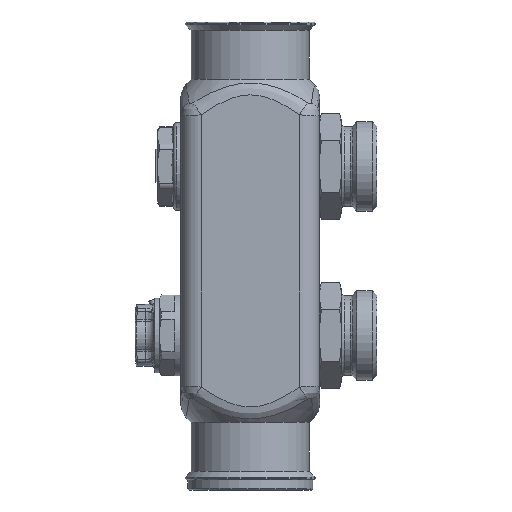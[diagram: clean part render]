
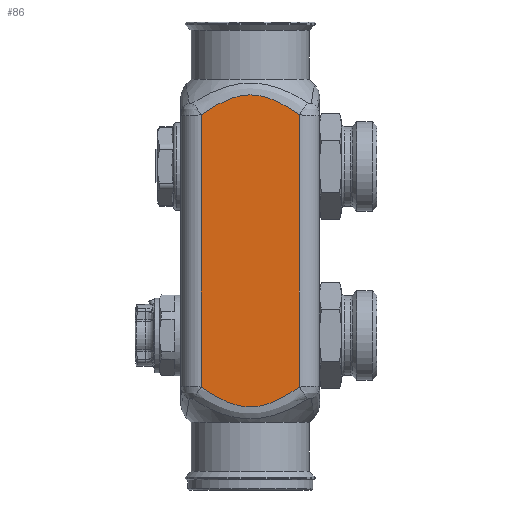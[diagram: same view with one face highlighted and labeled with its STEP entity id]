
A CAD part, left-side view. The second image highlights one B-rep face of the part: STEP entity #86.
In plain terms, the highlighted planar face has unit normal (-1, 0, 0).
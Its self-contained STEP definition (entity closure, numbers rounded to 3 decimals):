
#86=ADVANCED_FACE('',(#1311),#1313,.T.);
#1311=FACE_BOUND('',#1312,.T.);
#1312=EDGE_LOOP('',(#10306,#10307,#10308,#10309));
#1313=PLANE('',#1314);
#1314=AXIS2_PLACEMENT_3D('',#1315,#1316,#1317);
#1315=CARTESIAN_POINT('',(-20.,14.5,-51.));
#1316=DIRECTION('',(-1.,0.,0.));
#1317=DIRECTION('',(0.,-1.,0.));
#10306=ORIENTED_EDGE('',*,*,#13899,.F.);
#10307=ORIENTED_EDGE('',*,*,#13900,.F.);
#10308=ORIENTED_EDGE('',*,*,#13901,.F.);
#10309=ORIENTED_EDGE('',*,*,#13863,.T.);
#13863=EDGE_CURVE('',#15508,#15506,#15509,.T.);
#13899=EDGE_CURVE('',#15570,#15506,#15571,.T.);
#13900=EDGE_CURVE('',#15572,#15570,#15573,.T.);
#13901=EDGE_CURVE('',#15508,#15572,#15574,.T.);
#15506=VERTEX_POINT('',#18379);
#15508=VERTEX_POINT('',#18412);
#15509=LINE('',#18413,#18414);
#15570=VERTEX_POINT('',#18939);
#15571=B_SPLINE_CURVE_WITH_KNOTS('',3,
(#18940,#18941,#18942,#18943,#18944,#18945,#18946,#18947,#18948,#18949,#18950,#18951,
#18952,#18953,#18954,#18955,#18956,#18957,#18958,#18959,#18960,#18961,#18962,#18963),
.UNSPECIFIED.,.F.,.F.,
(4,1,1,1,1,1,1,1,1,1,1,1,1,1,1,1,1,1,1,1,1,4),
(0.,0.067,0.126,0.177,0.229,0.282,
0.333,0.38,0.422,0.461,0.5,
0.538,0.579,0.624,0.674,0.728,
0.78,0.832,0.883,0.936,0.975,
1.),
.UNSPECIFIED.);
#15572=VERTEX_POINT('',#18964);
#15573=LINE('',#18965,#18966);
#15574=B_SPLINE_CURVE_WITH_KNOTS('',3,
(#18968,#18969,#18970,#18971,#18972,#18973,#18974,#18975,#18976,#18977,#18978,#18979,
#18980,#18981,#18982,#18983,#18984,#18985,#18986,#18987,#18988,#18989,#18990,#18991),
.UNSPECIFIED.,.F.,.F.,
(4,1,1,1,1,1,1,1,1,1,1,1,1,1,1,1,1,1,1,1,1,4),
(0.,0.067,0.126,0.177,0.229,0.282,
0.333,0.38,0.422,0.461,0.5,
0.538,0.579,0.624,0.674,0.728,
0.78,0.832,0.883,0.936,0.975,
1.),
.UNSPECIFIED.);
#18379=CARTESIAN_POINT('',(-20.,-14.5,40.316));
#18412=CARTESIAN_POINT('',(-20.,-14.5,-40.316));
#18413=CARTESIAN_POINT('',(-20.,-14.5,-40.316));
#18414=VECTOR('',#18415,1.);
#18415=DIRECTION('',(0.,0.,1.));
#18939=CARTESIAN_POINT('',(-20.,14.5,40.316));
#18940=CARTESIAN_POINT('',(-20.,14.5,40.316));
#18941=CARTESIAN_POINT('',(-20.,13.894,40.737));
#18942=CARTESIAN_POINT('',(-20.,12.751,41.507));
#18943=CARTESIAN_POINT('',(-20.,11.115,42.523));
#18944=CARTESIAN_POINT('',(-20.,9.596,43.386));
#18945=CARTESIAN_POINT('',(-20.,8.102,44.148));
#18946=CARTESIAN_POINT('',(-20.,6.589,44.815));
#18947=CARTESIAN_POINT('',(-20.,5.102,45.355));
#18948=CARTESIAN_POINT('',(-20.,3.708,45.746));
#18949=CARTESIAN_POINT('',(-20.,2.415,46.002));
#18950=CARTESIAN_POINT('',(-20.,1.196,46.147));
#18951=CARTESIAN_POINT('',(-20.,0.013,46.194));
#18952=CARTESIAN_POINT('',(-20.,-1.184,46.148));
#18953=CARTESIAN_POINT('',(-20.,-2.447,45.999));
#18954=CARTESIAN_POINT('',(-20.,-3.824,45.72));
#18955=CARTESIAN_POINT('',(-20.,-5.311,45.289));
#18956=CARTESIAN_POINT('',(-20.,-6.841,44.712));
#18957=CARTESIAN_POINT('',(-20.,-8.369,44.019));
#18958=CARTESIAN_POINT('',(-20.,-9.844,43.251));
#18959=CARTESIAN_POINT('',(-20.,-11.312,42.404));
#18960=CARTESIAN_POINT('',(-20.,-12.628,41.579));
#18961=CARTESIAN_POINT('',(-20.,-13.697,40.87));
#18962=CARTESIAN_POINT('',(-20.,-14.272,40.474));
#18963=CARTESIAN_POINT('',(-20.,-14.5,40.316));
#18964=CARTESIAN_POINT('',(-20.,14.5,-40.316));
#18965=CARTESIAN_POINT('',(-20.,14.5,-40.316));
#18966=VECTOR('',#18967,1.);
#18967=DIRECTION('',(0.,0.,1.));
#18968=CARTESIAN_POINT('',(-20.,-14.5,-40.316));
#18969=CARTESIAN_POINT('',(-20.,-13.894,-40.737));
#18970=CARTESIAN_POINT('',(-20.,-12.751,-41.507));
#18971=CARTESIAN_POINT('',(-20.,-11.115,-42.523));
#18972=CARTESIAN_POINT('',(-20.,-9.596,-43.386));
#18973=CARTESIAN_POINT('',(-20.,-8.102,-44.148));
#18974=CARTESIAN_POINT('',(-20.,-6.589,-44.815));
#18975=CARTESIAN_POINT('',(-20.,-5.102,-45.355));
#18976=CARTESIAN_POINT('',(-20.,-3.708,-45.746));
#18977=CARTESIAN_POINT('',(-20.,-2.415,-46.002));
#18978=CARTESIAN_POINT('',(-20.,-1.196,-46.147));
#18979=CARTESIAN_POINT('',(-20.,-0.013,-46.194));
#18980=CARTESIAN_POINT('',(-20.,1.184,-46.148));
#18981=CARTESIAN_POINT('',(-20.,2.447,-45.999));
#18982=CARTESIAN_POINT('',(-20.,3.824,-45.72));
#18983=CARTESIAN_POINT('',(-20.,5.311,-45.289));
#18984=CARTESIAN_POINT('',(-20.,6.841,-44.712));
#18985=CARTESIAN_POINT('',(-20.,8.369,-44.019));
#18986=CARTESIAN_POINT('',(-20.,9.844,-43.251));
#18987=CARTESIAN_POINT('',(-20.,11.312,-42.404));
#18988=CARTESIAN_POINT('',(-20.,12.628,-41.579));
#18989=CARTESIAN_POINT('',(-20.,13.697,-40.87));
#18990=CARTESIAN_POINT('',(-20.,14.272,-40.474));
#18991=CARTESIAN_POINT('',(-20.,14.5,-40.316));
